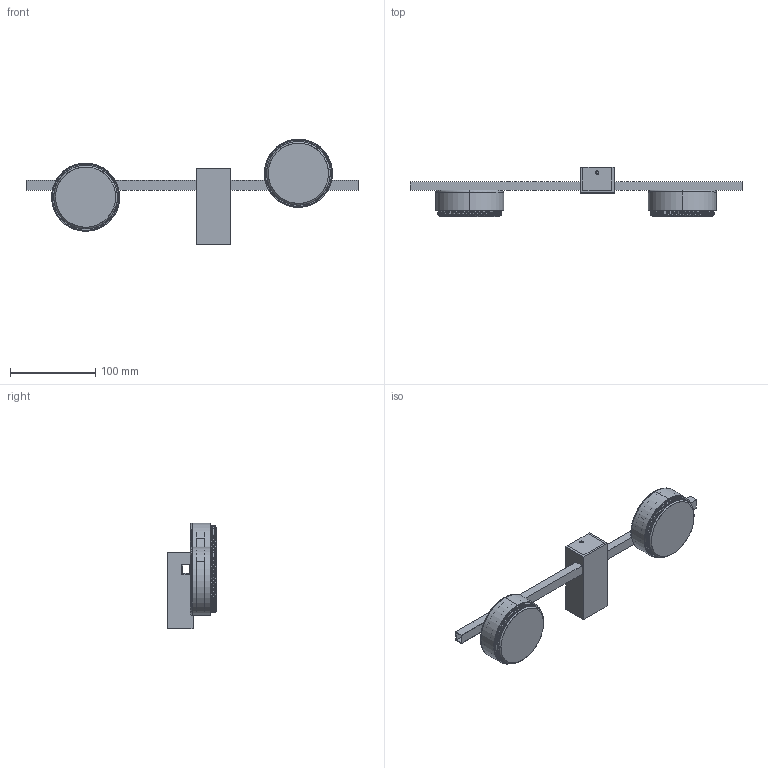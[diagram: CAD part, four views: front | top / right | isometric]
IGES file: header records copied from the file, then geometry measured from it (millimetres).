
Start section: SolidWorks IGES file using analytic representation for surfaces
Global section: file name: Z:\Modele 3D_WWW\_KOLEKCJE_WWW\PILLS\PILLS-II-8264-8270\PILLS-II-8264-8270.IGS; native system: SolidWorks 2021; preprocessor: SolidWorks 2021; author: gabriela.tworek; date: 210528.115139; units: millimetre
Bounding box: 390 x 57.55 x 123.95 mm (x, y, z)
Surface area: 161029.9 mm2 (no closed solid volume)
Topology: 0 solids, 0 shells, 2697 faces, 21884 edges, 21884 vertices
Faces by surface type: bspline 1559, revolution 1138
